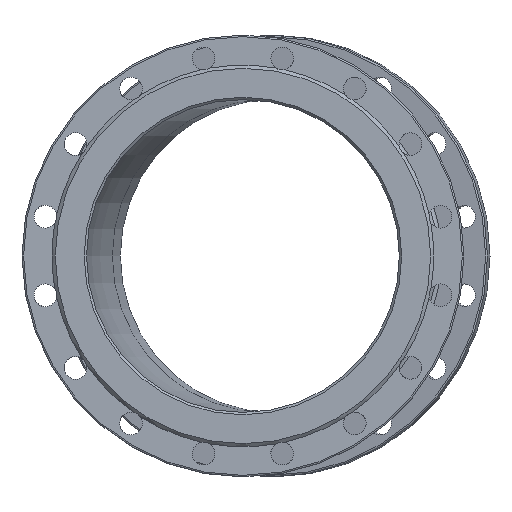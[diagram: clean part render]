
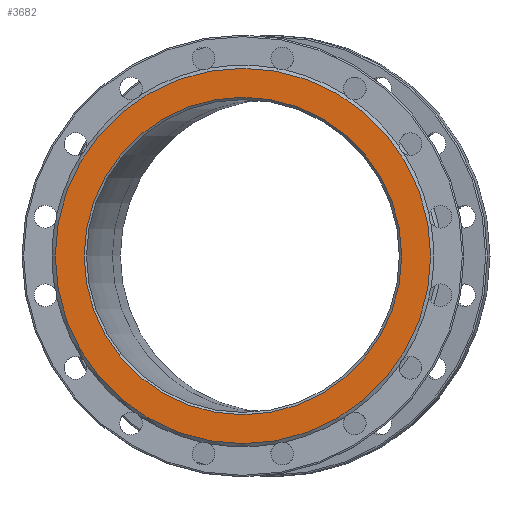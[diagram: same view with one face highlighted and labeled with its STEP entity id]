
A CAD part, left-side view. The second image highlights one B-rep face of the part: STEP entity #3682.
In plain terms, the highlighted planar face has unit normal (-1, 0, 0).
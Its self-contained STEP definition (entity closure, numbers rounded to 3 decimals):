
#23 = DIRECTION ( 'NONE',  ( 1., 0., 0. ) ) ;
#237 = DIRECTION ( 'NONE',  ( 1., 0., 0. ) ) ;
#270 = CARTESIAN_POINT ( 'NONE',  ( -205., 203., 0. ) ) ;
#480 = EDGE_CURVE ( 'NONE', #600, #600, #1874, .T. ) ;
#496 = ORIENTED_EDGE ( 'NONE', *, *, #1950, .F. ) ;
#565 = CARTESIAN_POINT ( 'NONE',  ( -205., 0., 0. ) ) ;
#600 = VERTEX_POINT ( 'NONE', #270 ) ;
#602 = DIRECTION ( 'NONE',  ( 0., 1., 0. ) ) ;
#745 = EDGE_LOOP ( 'NONE', ( #496 ) ) ;
#861 = FACE_OUTER_BOUND ( 'NONE', #745, .T. ) ;
#1115 = DIRECTION ( 'NONE',  ( 0., 1., 0. ) ) ;
#1166 = CARTESIAN_POINT ( 'NONE',  ( -205., 0., 0. ) ) ;
#1563 = AXIS2_PLACEMENT_3D ( 'NONE', #1166, #23, #602 ) ;
#1703 = EDGE_LOOP ( 'NONE', ( #2218 ) ) ;
#1874 = CIRCLE ( 'NONE', #1563, 203. ) ;
#1950 = EDGE_CURVE ( 'NONE', #2495, #2495, #2334, .T. ) ;
#2071 = PLANE ( 'NONE',  #3523 ) ;
#2218 = ORIENTED_EDGE ( 'NONE', *, *, #480, .T. ) ;
#2230 = CARTESIAN_POINT ( 'NONE',  ( -205., 0., 0. ) ) ;
#2334 = CIRCLE ( 'NONE', #3438, 240. ) ;
#2495 = VERTEX_POINT ( 'NONE', #3735 ) ;
#3012 = DIRECTION ( 'NONE',  ( 0., 1., 0. ) ) ;
#3336 = FACE_BOUND ( 'NONE', #1703, .T. ) ;
#3438 = AXIS2_PLACEMENT_3D ( 'NONE', #2230, #3474, #1115 ) ;
#3474 = DIRECTION ( 'NONE',  ( 1., 0., 0. ) ) ;
#3523 = AXIS2_PLACEMENT_3D ( 'NONE', #565, #237, #3012 ) ;
#3682 = ADVANCED_FACE ( 'NONE', ( #3336, #861 ), #2071, .F. ) ;
#3735 = CARTESIAN_POINT ( 'NONE',  ( -205., 240., 0. ) ) ;
